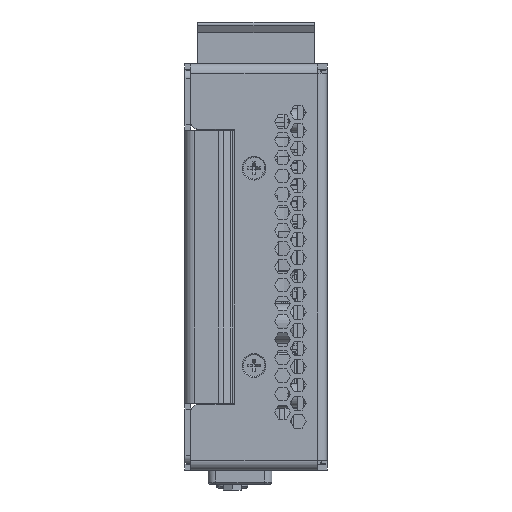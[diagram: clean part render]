
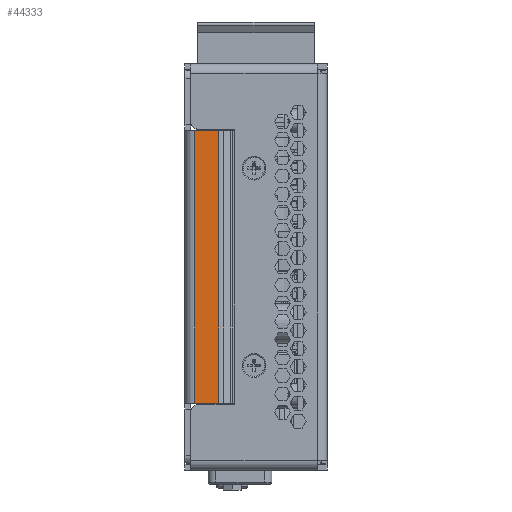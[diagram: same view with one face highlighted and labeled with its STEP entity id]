
A CAD part, front view. The second image highlights one B-rep face of the part: STEP entity #44333.
In plain terms, the highlighted planar face has unit normal (0, -1, 0).
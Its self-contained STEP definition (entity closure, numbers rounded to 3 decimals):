
#3402 = CARTESIAN_POINT ( 'NONE',  ( -96.468, -52.168, 138.399 ) ) ;
#6353 = EDGE_CURVE ( 'NONE', #43955, #83317, #261287, .T. ) ;
#7666 = DIRECTION ( 'NONE',  ( 1., 0., 0. ) ) ;
#14198 = CARTESIAN_POINT ( 'NONE',  ( -12.218, -52.168, 147. ) ) ;
#31492 = DIRECTION ( 'NONE',  ( 0., 1., 0. ) ) ;
#43955 = VERTEX_POINT ( 'NONE', #189000 ) ;
#44333 = ADVANCED_FACE ( 'NONE', ( #219897 ), #201554, .F. ) ;
#45407 = DIRECTION ( 'NONE',  ( 1., 0., 0. ) ) ;
#83317 = VERTEX_POINT ( 'NONE', #179350 ) ;
#94327 = LINE ( 'NONE', #14198, #268362 ) ;
#94719 = CARTESIAN_POINT ( 'NONE',  ( -96.468, -52.168, 147. ) ) ;
#102467 = VECTOR ( 'NONE', #7666, 1000. ) ;
#112105 = DIRECTION ( 'NONE',  ( 0., 0., -1. ) ) ;
#115458 = AXIS2_PLACEMENT_3D ( 'NONE', #94719, #31492, #198781 ) ;
#115745 = VERTEX_POINT ( 'NONE', #212448 ) ;
#130528 = VECTOR ( 'NONE', #45407, 1000. ) ;
#131451 = CARTESIAN_POINT ( 'NONE',  ( -12.218, -52.168, 144.5 ) ) ;
#135684 = ORIENTED_EDGE ( 'NONE', *, *, #6353, .T. ) ;
#144757 = EDGE_LOOP ( 'NONE', ( #135684, #256787, #213814, #275682 ) ) ;
#154446 = CARTESIAN_POINT ( 'NONE',  ( -81.218, -52.168, 147. ) ) ;
#160120 = EDGE_CURVE ( 'NONE', #83317, #115745, #194496, .T. ) ;
#167048 = EDGE_CURVE ( 'NONE', #115745, #274183, #94327, .T. ) ;
#179350 = CARTESIAN_POINT ( 'NONE',  ( -81.218, -52.168, 138.399 ) ) ;
#181513 = DIRECTION ( 'NONE',  ( 0., 0., 1. ) ) ;
#189000 = CARTESIAN_POINT ( 'NONE',  ( -81.218, -52.168, 144.5 ) ) ;
#194496 = LINE ( 'NONE', #3402, #130528 ) ;
#198781 = DIRECTION ( 'NONE',  ( 1., 0., 0. ) ) ;
#200086 = LINE ( 'NONE', #223977, #102467 ) ;
#201554 = PLANE ( 'NONE',  #115458 ) ;
#212448 = CARTESIAN_POINT ( 'NONE',  ( -12.218, -52.168, 138.399 ) ) ;
#213814 = ORIENTED_EDGE ( 'NONE', *, *, #167048, .T. ) ;
#219897 = FACE_OUTER_BOUND ( 'NONE', #144757, .T. ) ;
#223977 = CARTESIAN_POINT ( 'NONE',  ( -12.218, -52.168, 144.5 ) ) ;
#247030 = EDGE_CURVE ( 'NONE', #43955, #274183, #200086, .T. ) ;
#256787 = ORIENTED_EDGE ( 'NONE', *, *, #160120, .T. ) ;
#259443 = VECTOR ( 'NONE', #112105, 1000. ) ;
#261287 = LINE ( 'NONE', #154446, #259443 ) ;
#268362 = VECTOR ( 'NONE', #181513, 1000. ) ;
#274183 = VERTEX_POINT ( 'NONE', #131451 ) ;
#275682 = ORIENTED_EDGE ( 'NONE', *, *, #247030, .F. ) ;
